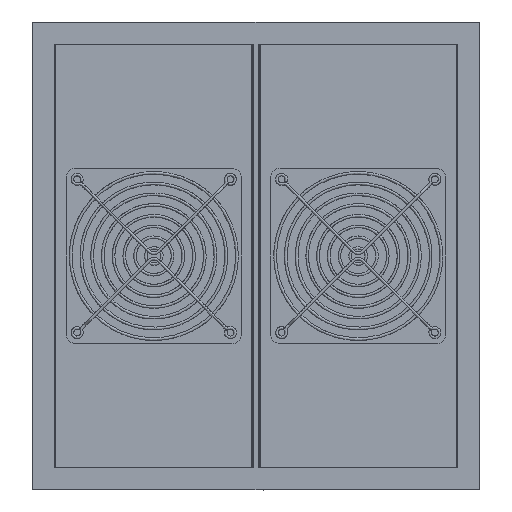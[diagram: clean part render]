
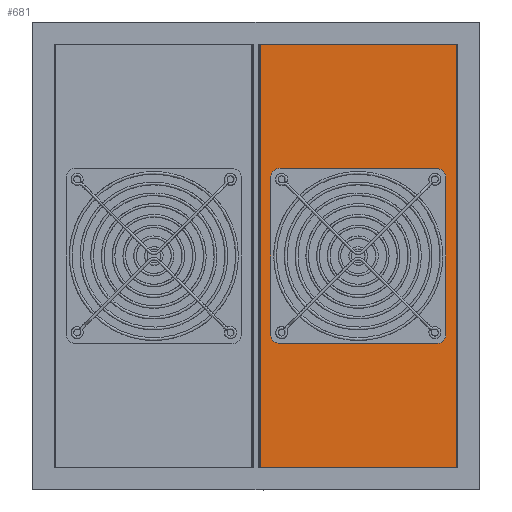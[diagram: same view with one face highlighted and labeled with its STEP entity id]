
A CAD part, front view. The second image highlights one B-rep face of the part: STEP entity #681.
In plain terms, the highlighted planar face has unit normal (0, -1, 0).
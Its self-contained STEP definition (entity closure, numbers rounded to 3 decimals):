
#681=ADVANCED_FACE('',(#1331),#10479,.T.);
#1331=FACE_OUTER_BOUND('',#1985,.T.);
#1985=EDGE_LOOP('',(#4804,#4805,#4806,#4807));
#4804=ORIENTED_EDGE('',*,*,#6828,.F.);
#4805=ORIENTED_EDGE('',*,*,#6832,.T.);
#4806=ORIENTED_EDGE('',*,*,#6833,.T.);
#4807=ORIENTED_EDGE('',*,*,#6834,.T.);
#6828=EDGE_CURVE('',#9722,#9725,#8596,.T.);
#6832=EDGE_CURVE('',#9722,#9726,#8600,.T.);
#6833=EDGE_CURVE('',#9726,#9727,#8601,.T.);
#6834=EDGE_CURVE('',#9727,#9725,#8602,.T.);
#8596=B_SPLINE_CURVE_WITH_KNOTS('',1,(#21231,#21232),.UNSPECIFIED.,.F.,
 .F.,(2,2),(184.513,318.816),.UNSPECIFIED.);
#8600=B_SPLINE_CURVE_WITH_KNOTS('',1,(#21239,#21240),.UNSPECIFIED.,.F.,
 .F.,(2,2),(0.,290.),.UNSPECIFIED.);
#8601=B_SPLINE_CURVE_WITH_KNOTS('',1,(#21241,#21242),.UNSPECIFIED.,.F.,
 .F.,(2,2),(184.513,318.816),.UNSPECIFIED.);
#8602=B_SPLINE_CURVE_WITH_KNOTS('',1,(#21243,#21244),.UNSPECIFIED.,.F.,
 .F.,(2,2),(-290.,0.),.UNSPECIFIED.);
#9722=VERTEX_POINT('',#21223);
#9725=VERTEX_POINT('',#21226);
#9726=VERTEX_POINT('',#21227);
#9727=VERTEX_POINT('',#21228);
#10479=PLANE('',#11049);
#11049=AXIS2_PLACEMENT_3D('',#21218,#11603,$);
#11603=DIRECTION('',(0.,-1.,0.));
#21218=CARTESIAN_POINT('',(137.151,169.281,145.));
#21223=CARTESIAN_POINT('',(2.849,169.281,145.));
#21226=CARTESIAN_POINT('',(137.151,169.281,145.));
#21227=CARTESIAN_POINT('',(2.849,169.281,-145.));
#21228=CARTESIAN_POINT('',(137.151,169.281,-145.));
#21231=CARTESIAN_POINT('',(2.849,169.281,145.));
#21232=CARTESIAN_POINT('',(137.151,169.281,145.));
#21239=CARTESIAN_POINT('',(2.849,169.281,145.));
#21240=CARTESIAN_POINT('',(2.849,169.281,-145.));
#21241=CARTESIAN_POINT('',(2.849,169.281,-145.));
#21242=CARTESIAN_POINT('',(137.151,169.281,-145.));
#21243=CARTESIAN_POINT('',(137.151,169.281,-145.));
#21244=CARTESIAN_POINT('',(137.151,169.281,145.));
